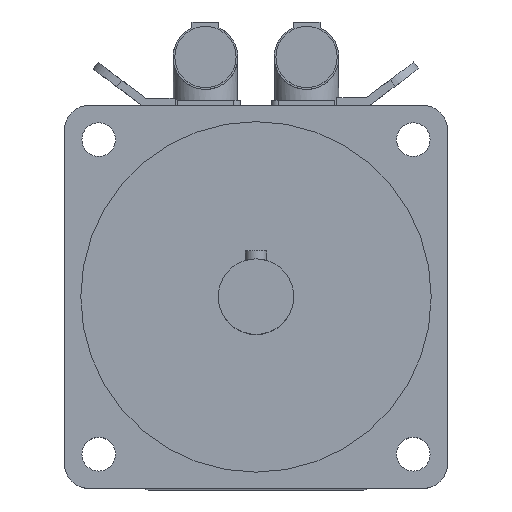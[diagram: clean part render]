
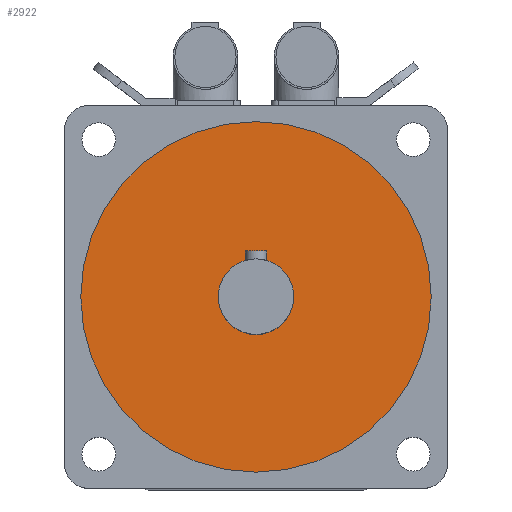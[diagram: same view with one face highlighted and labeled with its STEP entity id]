
A CAD part, top view. The second image highlights one B-rep face of the part: STEP entity #2922.
In plain terms, the highlighted planar face has unit normal (0, 0, 1).
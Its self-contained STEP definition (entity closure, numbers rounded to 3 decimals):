
#614=PLANE('',#3118);
#692=FACE_BOUND('',#926,.T.);
#742=FACE_OUTER_BOUND('',#925,.T.);
#925=EDGE_LOOP('',(#2098));
#926=EDGE_LOOP('',(#2099));
#1112=CIRCLE('',#3113,14.);
#1113=CIRCLE('',#3116,65.);
#1298=VERTEX_POINT('',#4521);
#1299=VERTEX_POINT('',#4525);
#1604=EDGE_CURVE('',#1298,#1298,#1112,.T.);
#1605=EDGE_CURVE('',#1299,#1299,#1113,.T.);
#2098=ORIENTED_EDGE('',*,*,#1605,.T.);
#2099=ORIENTED_EDGE('',*,*,#1604,.T.);
#2922=ADVANCED_FACE('',(#742,#692),#614,.T.);
#3113=AXIS2_PLACEMENT_3D('',#4522,#3545,#3546);
#3116=AXIS2_PLACEMENT_3D('',#4526,#3551,#3552);
#3118=AXIS2_PLACEMENT_3D('',#4529,#3555,#3556);
#3545=DIRECTION('center_axis',(0.,0.,-1.));
#3546=DIRECTION('ref_axis',(-1.,0.,0.));
#3551=DIRECTION('center_axis',(0.,0.,1.));
#3552=DIRECTION('ref_axis',(-1.,0.,0.));
#3555=DIRECTION('center_axis',(0.,0.,1.));
#3556=DIRECTION('ref_axis',(1.,0.,0.));
#4521=CARTESIAN_POINT('',(14.,0.,330.5));
#4522=CARTESIAN_POINT('Origin',(0.,0.,330.5));
#4525=CARTESIAN_POINT('',(65.,0.,330.5));
#4526=CARTESIAN_POINT('Origin',(0.,0.,330.5));
#4529=CARTESIAN_POINT('Origin',(0.,0.,330.5));
